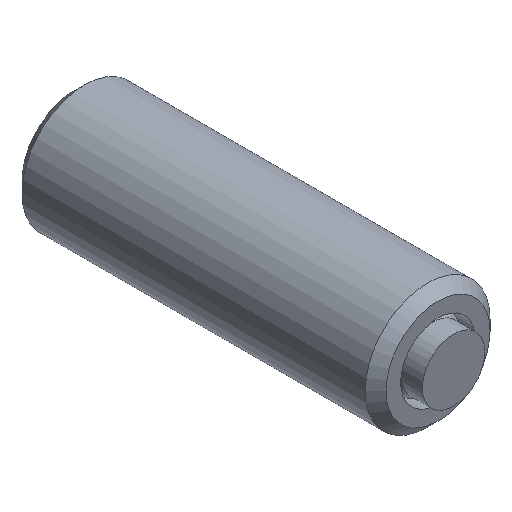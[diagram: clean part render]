
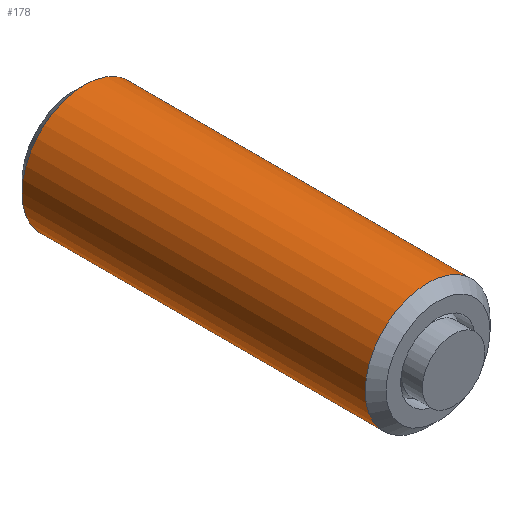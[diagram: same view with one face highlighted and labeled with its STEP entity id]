
A CAD part, isometric view. The second image highlights one B-rep face of the part: STEP entity #178.
In plain terms, the highlighted cylindrical face has radius 6 mm (diameter 12 mm), a full revolution.
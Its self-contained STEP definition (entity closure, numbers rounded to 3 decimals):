
#178 = ADVANCED_FACE( '', ( #213, #214 ), #215, .T. );
#213 = FACE_OUTER_BOUND( '', #259, .T. );
#214 = FACE_OUTER_BOUND( '', #260, .T. );
#215 = CYLINDRICAL_SURFACE( '', #261, 6. );
#259 = EDGE_LOOP( '', ( #333 ) );
#260 = EDGE_LOOP( '', ( #334 ) );
#261 = AXIS2_PLACEMENT_3D( '', #335, #336, #337 );
#333 = ORIENTED_EDGE( '', *, *, #406, .F. );
#334 = ORIENTED_EDGE( '', *, *, #389, .T. );
#335 = CARTESIAN_POINT( '', ( 0., 0., 0. ) );
#336 = DIRECTION( '', ( 0., 1., 0. ) );
#337 = DIRECTION( '', ( 0., 0., -1. ) );
#389 = EDGE_CURVE( '', #417, #417, #418, .T. );
#406 = EDGE_CURVE( '', #449, #449, #450, .T. );
#417 = VERTEX_POINT( '', #465 );
#418 = CIRCLE( '', #466, 6. );
#449 = VERTEX_POINT( '', #508 );
#450 = CIRCLE( '', #509, 6. );
#465 = CARTESIAN_POINT( '', ( 0., 34., -6. ) );
#466 = AXIS2_PLACEMENT_3D( '', #531, #532, #533 );
#508 = CARTESIAN_POINT( '', ( 0., 1., -6. ) );
#509 = AXIS2_PLACEMENT_3D( '', #560, #561, #562 );
#531 = CARTESIAN_POINT( '', ( 0., 34., 0. ) );
#532 = DIRECTION( '', ( 0., -1., 0. ) );
#533 = DIRECTION( '', ( 0., 0., -1. ) );
#560 = CARTESIAN_POINT( '', ( 0., 1., 0. ) );
#561 = DIRECTION( '', ( 0., -1., 0. ) );
#562 = DIRECTION( '', ( 0., 0., -1. ) );
